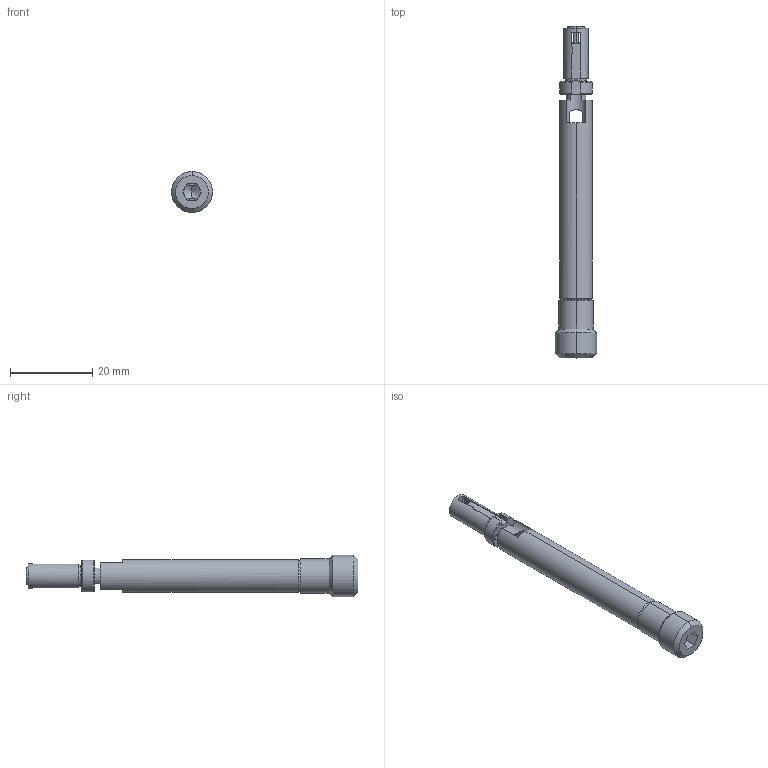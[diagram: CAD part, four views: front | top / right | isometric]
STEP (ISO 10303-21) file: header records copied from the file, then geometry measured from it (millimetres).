
FILE_DESCRIPTION (( 'STEP AP203' ), '1' );
FILE_NAME ('SGD-605_PROFILO.STEP', '2016-12-20T14:14:49', ( 'Balzi' ), ( '' ), 'SwSTEP 2.0', 'SolidWorks 2016', '' );
FILE_SCHEMA (( 'CONFIG_CONTROL_DESIGN' ));
Length unit declared in the file: millimetre
Products named in the file (1): SGD-605_PROFILO
Bounding box: 10 x 80.5 x 10 mm (x, y, z)
Volume: 2466.3 mm3; surface area: 3268 mm2
Topology: 3 solids, 3 shells, 98 faces, 265 edges, 166 vertices
Faces by surface type: plane 40, cylinder 36, cone 18, torus 4
Entity records: 3247 total; most frequent: CARTESIAN_POINT 709, DIRECTION 522, ORIENTED_EDGE 518, EDGE_CURVE 259, AXIS2_PLACEMENT_3D 203, VERTEX_POINT 166, LINE 116, VECTOR 116
